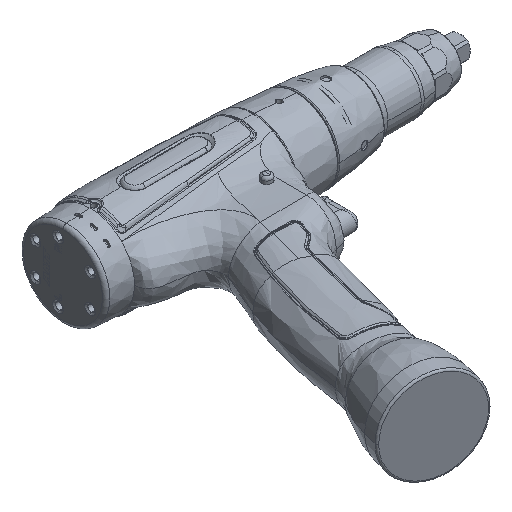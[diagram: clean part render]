
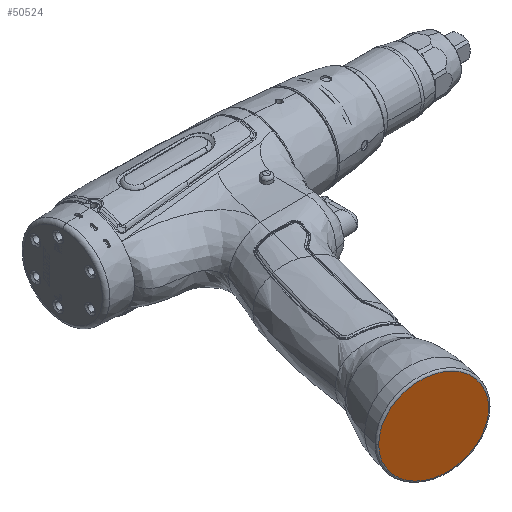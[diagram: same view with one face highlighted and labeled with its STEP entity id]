
A CAD part, isometric view. The second image highlights one B-rep face of the part: STEP entity #50524.
In plain terms, the highlighted planar face has unit normal (-0.259, -0.966, 0).
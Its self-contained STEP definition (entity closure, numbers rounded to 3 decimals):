
#9981 = EDGE_LOOP ( 'NONE', ( #55225, #10855 ) ) ;
#10855 = ORIENTED_EDGE ( 'NONE', *, *, #58007, .T. ) ;
#11439 = AXIS2_PLACEMENT_3D ( 'NONE', #51375, #36720, #12650 ) ;
#12650 = DIRECTION ( 'NONE',  ( 0.966, -0.259, 0. ) ) ;
#13374 = EDGE_CURVE ( 'NONE', #30110, #60799, #13404, .T. ) ;
#13404 = CIRCLE ( 'NONE', #11439, 23.75 ) ;
#13993 = CARTESIAN_POINT ( 'NONE',  ( -75.172, -173.387, 0. ) ) ;
#18280 = CARTESIAN_POINT ( 'NONE',  ( -98.113, -167.24, 0. ) ) ;
#18551 = DIRECTION ( 'NONE',  ( 0.966, -0.259, 0. ) ) ;
#28653 = AXIS2_PLACEMENT_3D ( 'NONE', #18280, #31448, #36113 ) ;
#28856 = CARTESIAN_POINT ( 'NONE',  ( -98.113, -167.24, 0. ) ) ;
#30110 = VERTEX_POINT ( 'NONE', #13993 ) ;
#30561 = CARTESIAN_POINT ( 'NONE',  ( -121.054, -161.094, 0. ) ) ;
#31448 = DIRECTION ( 'NONE',  ( -0.259, -0.966, 0. ) ) ;
#36113 = DIRECTION ( 'NONE',  ( 0.966, -0.259, 0. ) ) ;
#36720 = DIRECTION ( 'NONE',  ( -0.259, -0.966, 0. ) ) ;
#41701 = FACE_OUTER_BOUND ( 'NONE', #9981, .T. ) ;
#44350 = CIRCLE ( 'NONE', #52355, 23.75 ) ;
#47867 = DIRECTION ( 'NONE',  ( -0.259, -0.966, 0. ) ) ;
#50524 = ADVANCED_FACE ( 'NONE', ( #41701 ), #56047, .T. ) ;
#51375 = CARTESIAN_POINT ( 'NONE',  ( -98.113, -167.24, 0. ) ) ;
#52355 = AXIS2_PLACEMENT_3D ( 'NONE', #28856, #47867, #18551 ) ;
#55225 = ORIENTED_EDGE ( 'NONE', *, *, #13374, .T. ) ;
#56047 = PLANE ( 'NONE',  #28653 ) ;
#58007 = EDGE_CURVE ( 'NONE', #60799, #30110, #44350, .T. ) ;
#60799 = VERTEX_POINT ( 'NONE', #30561 ) ;
